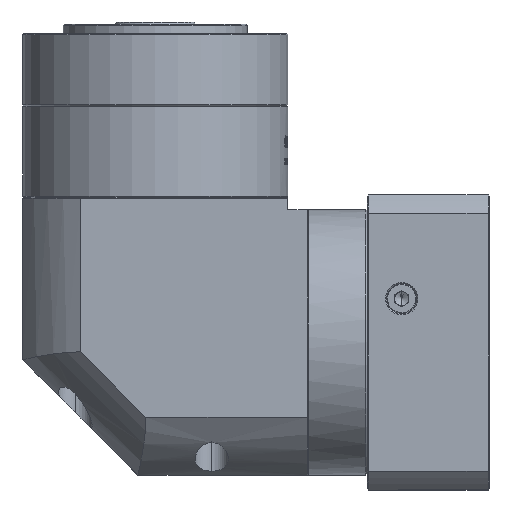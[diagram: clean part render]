
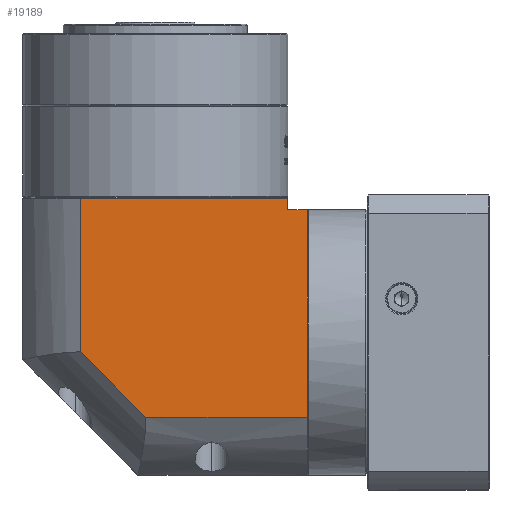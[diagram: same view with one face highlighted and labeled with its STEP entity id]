
A CAD part, left-side view. The second image highlights one B-rep face of the part: STEP entity #19189.
In plain terms, the highlighted planar face has unit normal (-1, 0, 0).
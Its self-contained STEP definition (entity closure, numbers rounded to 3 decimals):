
#2061 = DIRECTION ( 'NONE',  ( 0., 1., 0. ) ) ;
#4922 = VECTOR ( 'NONE', #146573, 1000. ) ;
#6250 = DIRECTION ( 'NONE',  ( 0., 0., 1. ) ) ;
#7004 = LINE ( 'NONE', #95590, #160039 ) ;
#9407 = LINE ( 'NONE', #169669, #151743 ) ;
#10381 = VECTOR ( 'NONE', #6250, 1000. ) ;
#18026 = CARTESIAN_POINT ( 'NONE',  ( -298.076, -10.971, 2.07 ) ) ;
#19189 = ADVANCED_FACE ( 'NONE', ( #25203 ), #54749, .F. ) ;
#25203 = FACE_OUTER_BOUND ( 'NONE', #25428, .T. ) ;
#25428 = EDGE_LOOP ( 'NONE', ( #151826, #58034, #156120, #128492, #64403, #56034, #98219 ) ) ;
#32875 = EDGE_CURVE ( 'NONE', #80490, #143389, #49839, .T. ) ;
#34291 = CARTESIAN_POINT ( 'NONE',  ( -298.076, 42.467, 96.97 ) ) ;
#34366 = DIRECTION ( 'NONE',  ( 0., 1., 0. ) ) ;
#40395 = CARTESIAN_POINT ( 'NONE',  ( -298.076, -80.933, 103.47 ) ) ;
#46856 = CARTESIAN_POINT ( 'NONE',  ( -298.076, 17.367, 103.47 ) ) ;
#49839 = LINE ( 'NONE', #132980, #4922 ) ;
#49919 = CARTESIAN_POINT ( 'NONE',  ( -298.076, -80.933, 91.97 ) ) ;
#54749 = PLANE ( 'NONE',  #65488 ) ;
#55206 = CARTESIAN_POINT ( 'NONE',  ( -298.076, -72.533, -23.03 ) ) ;
#55284 = DIRECTION ( 'NONE',  ( 0., 0., -1. ) ) ;
#56034 = ORIENTED_EDGE ( 'NONE', *, *, #155323, .T. ) ;
#58034 = ORIENTED_EDGE ( 'NONE', *, *, #32875, .F. ) ;
#64021 = EDGE_CURVE ( 'NONE', #74114, #90862, #94284, .T. ) ;
#64403 = ORIENTED_EDGE ( 'NONE', *, *, #173651, .T. ) ;
#65488 = AXIS2_PLACEMENT_3D ( 'NONE', #135412, #156527, #2061 ) ;
#73509 = DIRECTION ( 'NONE',  ( 0., -1., 0. ) ) ;
#74114 = VERTEX_POINT ( 'NONE', #157350 ) ;
#75419 = CARTESIAN_POINT ( 'NONE',  ( -298.076, 17.367, 30.408 ) ) ;
#80490 = VERTEX_POINT ( 'NONE', #18026 ) ;
#80532 = LINE ( 'NONE', #46856, #10381 ) ;
#81676 = VECTOR ( 'NONE', #108702, 1000. ) ;
#85439 = LINE ( 'NONE', #40395, #153322 ) ;
#88565 = EDGE_CURVE ( 'NONE', #130263, #80490, #9407, .T. ) ;
#90862 = VERTEX_POINT ( 'NONE', #106710 ) ;
#94284 = LINE ( 'NONE', #34291, #143130 ) ;
#95590 = CARTESIAN_POINT ( 'NONE',  ( -298.076, -72.533, 91.97 ) ) ;
#97531 = CARTESIAN_POINT ( 'NONE',  ( -298.076, -72.533, 91.97 ) ) ;
#98219 = ORIENTED_EDGE ( 'NONE', *, *, #64021, .F. ) ;
#101018 = EDGE_CURVE ( 'NONE', #143389, #74114, #80532, .T. ) ;
#103218 = VERTEX_POINT ( 'NONE', #97531 ) ;
#106710 = CARTESIAN_POINT ( 'NONE',  ( -298.076, -72.533, 96.97 ) ) ;
#108702 = DIRECTION ( 'NONE',  ( 0., 0., 1. ) ) ;
#117851 = LINE ( 'NONE', #55206, #81676 ) ;
#119206 = EDGE_CURVE ( 'NONE', #135984, #130263, #85439, .T. ) ;
#121752 = DIRECTION ( 'NONE',  ( 0., 1., 0. ) ) ;
#128492 = ORIENTED_EDGE ( 'NONE', *, *, #119206, .F. ) ;
#130263 = VERTEX_POINT ( 'NONE', #172238 ) ;
#132980 = CARTESIAN_POINT ( 'NONE',  ( -298.076, -10.971, 2.07 ) ) ;
#135412 = CARTESIAN_POINT ( 'NONE',  ( -298.076, 42.467, 103.47 ) ) ;
#135984 = VERTEX_POINT ( 'NONE', #49919 ) ;
#143130 = VECTOR ( 'NONE', #73509, 1000. ) ;
#143389 = VERTEX_POINT ( 'NONE', #75419 ) ;
#146573 = DIRECTION ( 'NONE',  ( 0., 0.707, 0.707 ) ) ;
#151743 = VECTOR ( 'NONE', #34366, 1000. ) ;
#151826 = ORIENTED_EDGE ( 'NONE', *, *, #101018, .F. ) ;
#153322 = VECTOR ( 'NONE', #55284, 1000. ) ;
#155323 = EDGE_CURVE ( 'NONE', #103218, #90862, #117851, .T. ) ;
#156120 = ORIENTED_EDGE ( 'NONE', *, *, #88565, .F. ) ;
#156527 = DIRECTION ( 'NONE',  ( 1., 0., 0. ) ) ;
#157350 = CARTESIAN_POINT ( 'NONE',  ( -298.076, 17.367, 96.97 ) ) ;
#160039 = VECTOR ( 'NONE', #121752, 1000. ) ;
#169669 = CARTESIAN_POINT ( 'NONE',  ( -298.076, 42.467, 2.07 ) ) ;
#172238 = CARTESIAN_POINT ( 'NONE',  ( -298.076, -80.933, 2.07 ) ) ;
#173651 = EDGE_CURVE ( 'NONE', #135984, #103218, #7004, .T. ) ;
